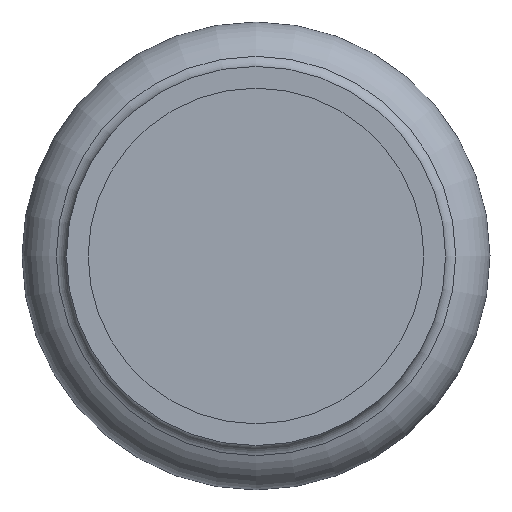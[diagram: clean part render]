
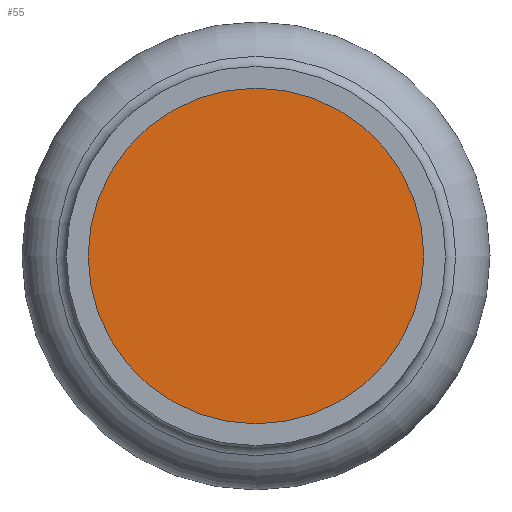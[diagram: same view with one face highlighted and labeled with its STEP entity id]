
A CAD part, front view. The second image highlights one B-rep face of the part: STEP entity #55.
In plain terms, the highlighted planar face has unit normal (0, -1, 0).
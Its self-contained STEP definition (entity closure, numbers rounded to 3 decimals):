
#55=ADVANCED_FACE('',(#92),#94,.T.);
#92=FACE_BOUND('',#93,.T.);
#93=EDGE_LOOP('',(#263));
#94=PLANE('',#95);
#95=AXIS2_PLACEMENT_3D('',#96,#97,#98);
#96=CARTESIAN_POINT('',(0.,7.221,0.));
#97=DIRECTION('',(0.,-1.,0.));
#98=DIRECTION('',(0.,0.,1.));
#263=ORIENTED_EDGE('',*,*,#301,.T.);
#301=EDGE_CURVE('',#323,#323,#324,.F.);
#323=VERTEX_POINT('',#369);
#324=CIRCLE('',#370,11.15);
#369=CARTESIAN_POINT('',(0.,7.221,11.15));
#370=AXIS2_PLACEMENT_3D('',#371,#372,#373);
#371=CARTESIAN_POINT('',(0.,7.221,0.));
#372=DIRECTION('',(0.,1.,0.));
#373=DIRECTION('',(0.,0.,1.));
